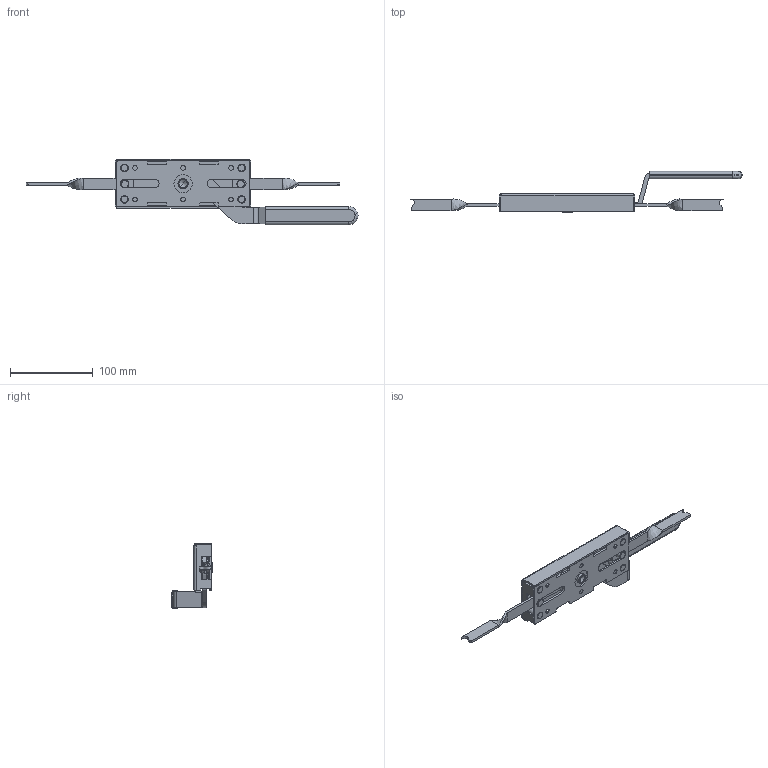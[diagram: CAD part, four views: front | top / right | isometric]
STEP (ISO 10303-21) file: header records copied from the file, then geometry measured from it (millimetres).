
FILE_DESCRIPTION (( 'STEP AP214' ), '1' );
FILE_NAME ('2.530.001.STEP', '2016-08-18T11:30:36', ( 'RST-Dolba' ), ( '' ), 'SwSTEP 2.0', 'SolidWorks 2015', '' );
FILE_SCHEMA (( 'AUTOMOTIVE_DESIGN' ));
Length unit declared in the file: millimetre
Products named in the file (16): 2.530.001.03_A; 2.530.001.03.03_A; 2.530.001.03.02_A; DIN 965_M5x12; 2.530.001.03.01_A; Moss Plastic Polska RRWA-91688-110; 2.530.001.01.02_A; DIN 137 B_12; 2.530.001.02.01_A; 2.530.001.05_A; 2.530.001.01_A; 2.530.001.01.01_A; 2.530.001; 2.530.001.04_A; 2.530.001.10_A
Assembly tree (23 placements, depth 4):
  2.530.001
    2.530.001.01.02_A
      2.530.001.01_A
        2.530.001.01.01_A  x4
        2.530.001.01_A
      2.530.001.05_A
      2.530.001.02.01_A
      DIN 137 B_12
    2.530.001.03_A  x2
      2.530.001.03.01_A
      2.530.001.03.02_A
      2.530.001.03.03_A
    2.530.001.04_A
    2.530.001.10_A  x2
    Moss Plastic Polska RRWA-91688-110
    DIN 965_M5x12  x4
Bounding box: 400.86 x 49.8 x 79.25 mm (x, y, z)
Volume: 116578 mm3; surface area: 98267.3 mm2
Topology: 22 solids, 22 shells, 517 faces, 1191 edges, 731 vertices
Faces by surface type: plane 197, cylinder 182, cone 92, bspline 46
Entity records: 13578 total; most frequent: CARTESIAN_POINT 2336, DIRECTION 1649, ORIENTED_EDGE 1502, EDGE_CURVE 751, AXIS2_PLACEMENT_3D 611, VERTEX_POINT 472, VECTOR 427, LINE 427
